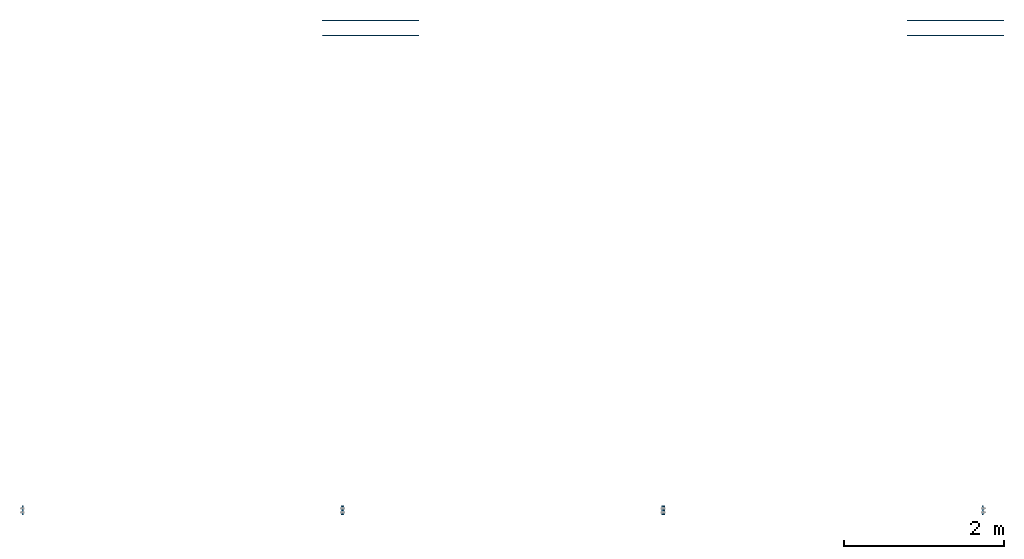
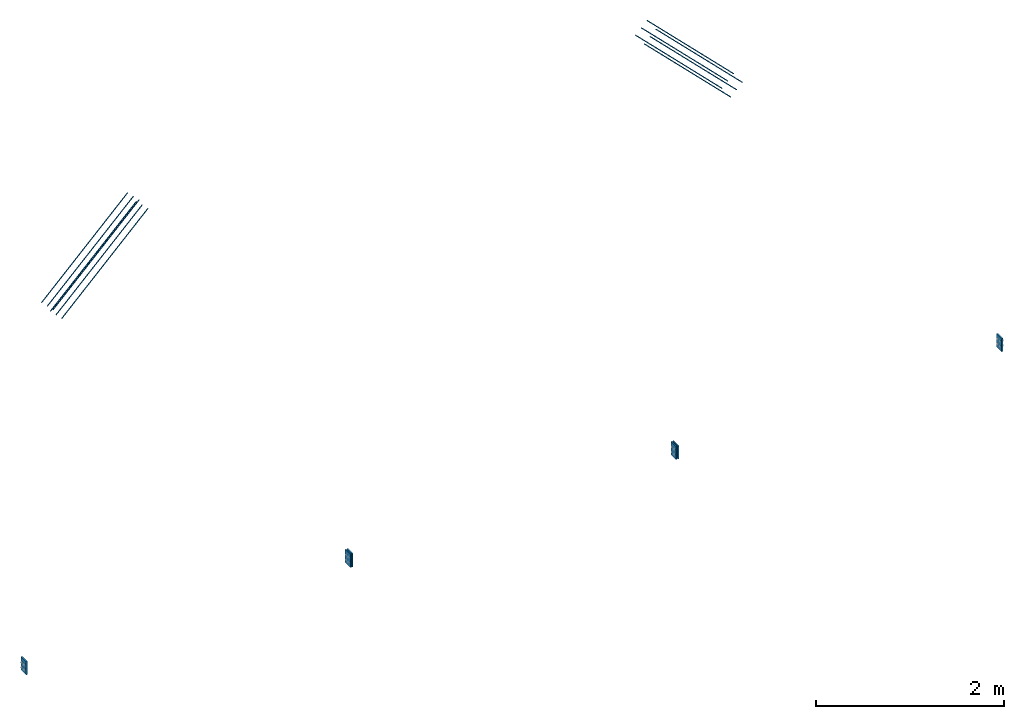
# One storey, part 1 of 13: 6 plates, 4 reinforcing bars, 24 openings.
"""IFC4X3_ADD2 building model written with IfcOpenShell, lengths in millimetres."""

from ifc_helpers import new_model, entity, si_unit, converted_unit, derived_unit, direction, frame, origin, origin_with_axes, origin_2d_with_axis, place, context, subcontext, project, spatial, polyline, circle, outline, extrude, material, layer, layer_set, type_object, element, save


model = new_model("IFC4X3_ADD2")

# Units and contexts
model_context = context("Model", 3, precision=0.01, world=origin(), true_north=direction((6.123233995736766e-17, 1.0)))
plan_context = context("Plan", 3, precision=0.01, world=origin(), true_north=direction((6.123233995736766e-17, 1.0)))
body_context = subcontext(model_context, "Body", "Model", "MODEL_VIEW")
ifc_project = project(units=[si_unit("LENGTHUNIT", "METRE", prefix="MILLI"), converted_unit("PLANEANGLEUNIT", "DEGREE", entity("IfcPlaneAngleMeasure", 0.017453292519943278), si_unit("PLANEANGLEUNIT", "RADIAN"), dimensions=[0, 0, 0, 0, 0, 0, 0]), si_unit("AREAUNIT", "SQUARE_METRE"), si_unit("VOLUMEUNIT", "CUBIC_METRE"), derived_unit("THERMALTRANSMITTANCEUNIT", [(si_unit("MASSUNIT", "GRAM", prefix="KILO"), 1), (si_unit("THERMODYNAMICTEMPERATUREUNIT", "KELVIN"), -1), (si_unit("TIMEUNIT", "SECOND"), -3)]), derived_unit("USERDEFINED", [(si_unit("MASSUNIT", "GRAM", prefix="KILO"), 1), (si_unit("THERMODYNAMICTEMPERATUREUNIT", "KELVIN"), -1), (si_unit("TIMEUNIT", "SECOND"), -2)]), derived_unit("THERMALRESISTANCEUNIT", [(si_unit("MASSUNIT", "GRAM", prefix="KILO"), -1), (si_unit("TIMEUNIT", "SECOND"), 3), (si_unit("THERMODYNAMICTEMPERATUREUNIT", "KELVIN"), 1)]), si_unit("MASSUNIT", "GRAM", prefix="KILO"), derived_unit("MOMENTOFINERTIAUNIT", [(si_unit("LENGTHUNIT", "METRE"), 4)]), derived_unit("LINEARFORCEUNIT", [(si_unit("MASSUNIT", "GRAM", prefix="KILO"), 1), (si_unit("TIMEUNIT", "SECOND"), -2)]), derived_unit("WARPINGCONSTANTUNIT", [(si_unit("LENGTHUNIT", "METRE"), 6)]), si_unit("PRESSUREUNIT", "PASCAL"), derived_unit("MASSDENSITYUNIT", [(si_unit("MASSUNIT", "GRAM", prefix="KILO"), 1), (si_unit("LENGTHUNIT", "METRE"), -3)]), derived_unit("MODULUSOFELASTICITYUNIT", [(si_unit("MASSUNIT", "GRAM", prefix="KILO"), 1), (si_unit("TIMEUNIT", "SECOND"), -2), (si_unit("LENGTHUNIT", "METRE"), -1)]), derived_unit("THERMALEXPANSIONCOEFFICIENTUNIT", [(si_unit("THERMODYNAMICTEMPERATUREUNIT", "KELVIN"), -1)]), derived_unit("VAPORPERMEABILITYUNIT", [(si_unit("LENGTHUNIT", "METRE"), -1), (si_unit("TIMEUNIT", "SECOND"), 1)]), derived_unit("USERDEFINED", [(si_unit("MASSUNIT", "GRAM", prefix="KILO"), 1), (si_unit("TIMEUNIT", "SECOND"), -3), (si_unit("LENGTHUNIT", "METRE"), 3), (si_unit("ELECTRICCURRENTUNIT", "AMPERE"), -2)]), derived_unit("SPECIFICHEATCAPACITYUNIT", [(si_unit("THERMODYNAMICTEMPERATUREUNIT", "KELVIN"), -1), (si_unit("TIMEUNIT", "SECOND"), -2), (si_unit("LENGTHUNIT", "METRE"), 2)]), derived_unit("THERMALCONDUCTANCEUNIT", [(si_unit("MASSUNIT", "GRAM", prefix="KILO"), 1), (si_unit("THERMODYNAMICTEMPERATUREUNIT", "KELVIN"), -1), (si_unit("TIMEUNIT", "SECOND"), -3), (si_unit("LENGTHUNIT", "METRE"), 1)])], contexts=[model_context, plan_context])

# Site, building, storey
site_placement = place(None, origin())
site = spatial("IfcSite", under=ifc_project, at=site_placement, Name="Default", CompositionType="ELEMENT")
building_placement = place(site_placement, origin())
building = spatial("IfcBuilding", under=site, at=building_placement, Name="Complex structure", CompositionType="ELEMENT")
storey_placement = place(building_placement, origin())
storey = spatial("IfcBuildingStorey", under=building, at=storey_placement, Name="Level 00", CompositionType="ELEMENT", Elevation=0.0)

# Plate, openings
ifc_material_1 = material(Name="Metal Stud Layer")
ifc_layer = layer(ifc_material_1, 15.0)
ifc_layer_set = layer_set([ifc_layer], Name="Metal Stud Layer")
plate_1_placement = place(storey_placement, frame((-13127.221550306, -1282.866703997, 2930.0), z_axis=(-1.0, 0.0, 0.0), x_axis=(0.0, 0.0, -1.0)))
plate_1 = element("IfcPlate", 1, at=plate_1_placement, inside=storey, material=ifc_layer_set, Name="Endplate", ObjectType="Endplate", context=model_context, shape_type="SweptSolid", body=[
    extrude(outline(polyline([(-85.0, -55.0), (85.0, -55.0), (85.0, 55.0), (-85.0, 55.0), (-85.0, -55.0)])), origin_with_axes(), (0.0, 0.0, 1.0), 15.0),
])
opening_1_placement = place(plate_1_placement, frame((-35.0, 25.0, 15.5), z_axis=(0.0, 0.0, -1.0), x_axis=(0.0, 1.0, 0.0)))
element("IfcOpeningElement", 2, at=opening_1_placement, cuts=plate_1, ObjectType="Opening", context=model_context, shape_type="SweptSolid", body=[
    extrude(circle(Radius=6.79475, at=origin_2d_with_axis()), origin(), (0.0, 0.0, 1.0), 16.0),
])
opening_2_placement = place(plate_1_placement, frame((30.0, -25.0, 15.5), z_axis=(0.0, 0.0, -1.0), x_axis=(0.0, -1.0, 0.0)))
element("IfcOpeningElement", 3, at=opening_2_placement, cuts=plate_1, ObjectType="Opening", context=model_context, shape_type="SweptSolid", body=[
    extrude(circle(Radius=6.79475, at=origin_2d_with_axis()), origin(), (0.0, 0.0, 1.0), 16.0),
])
opening_3_placement = place(plate_1_placement, frame((-35.0, -25.0, 15.5), z_axis=(0.0, 0.0, -1.0), x_axis=(0.0, -1.0, 0.0)))
element("IfcOpeningElement", 4, at=opening_3_placement, cuts=plate_1, ObjectType="Opening", context=model_context, shape_type="SweptSolid", body=[
    extrude(circle(Radius=6.79475, at=origin_2d_with_axis()), origin(), (0.0, 0.0, 1.0), 16.0),
])
opening_4_placement = place(plate_1_placement, frame((30.0, 25.0, 15.5), z_axis=(0.0, 0.0, -1.0), x_axis=(0.0, 1.0, 0.0)))
element("IfcOpeningElement", 5, at=opening_4_placement, cuts=plate_1, ObjectType="Opening", context=model_context, shape_type="SweptSolid", body=[
    extrude(circle(Radius=6.79475, at=origin_2d_with_axis()), origin(), (0.0, 0.0, 1.0), 16.0),
])

plate_2_placement = place(storey_placement, frame((-9163.221550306, -1282.866703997, 2930.0), z_axis=(1.0, 0.0, 0.0), x_axis=(0.0, 0.0, -1.0)))
plate_2 = element("IfcPlate", 6, at=plate_2_placement, inside=storey, material=ifc_layer_set, Name="Endplate", ObjectType="Endplate", context=model_context, shape_type="SweptSolid", body=[
    extrude(outline(polyline([(-85.0, -55.0), (85.0, -55.0), (85.0, 55.0), (-85.0, 55.0), (-85.0, -55.0)])), origin_with_axes(), (0.0, 0.0, 1.0), 15.0),
])
opening_5_placement = place(plate_2_placement, frame((30.0, 25.0, 15.5), z_axis=(0.0, 0.0, -1.0), x_axis=(0.0, 1.0, 0.0)))
element("IfcOpeningElement", 7, at=opening_5_placement, cuts=plate_2, ObjectType="Opening", context=model_context, shape_type="SweptSolid", body=[
    extrude(circle(Radius=6.79475, at=origin_2d_with_axis()), origin(), (0.0, 0.0, 1.0), 16.0),
])
opening_6_placement = place(plate_2_placement, frame((-35.0, 25.0, 15.5), z_axis=(0.0, 0.0, -1.0), x_axis=(0.0, 1.0, 0.0)))
element("IfcOpeningElement", 8, at=opening_6_placement, cuts=plate_2, ObjectType="Opening", context=model_context, shape_type="SweptSolid", body=[
    extrude(circle(Radius=6.79475, at=origin_2d_with_axis()), origin(), (0.0, 0.0, 1.0), 16.0),
])
opening_7_placement = place(plate_2_placement, frame((30.0, -25.0, 15.5), z_axis=(0.0, 0.0, -1.0), x_axis=(0.0, -1.0, 0.0)))
element("IfcOpeningElement", 9, at=opening_7_placement, cuts=plate_2, ObjectType="Opening", context=model_context, shape_type="SweptSolid", body=[
    extrude(circle(Radius=6.79475, at=origin_2d_with_axis()), origin(), (0.0, 0.0, 1.0), 16.0),
])
opening_8_placement = place(plate_2_placement, frame((-35.0, -25.0, 15.5), z_axis=(0.0, 0.0, -1.0), x_axis=(0.0, -1.0, 0.0)))
element("IfcOpeningElement", 10, at=opening_8_placement, cuts=plate_2, ObjectType="Opening", context=model_context, shape_type="SweptSolid", body=[
    extrude(circle(Radius=6.79475, at=origin_2d_with_axis()), origin(), (0.0, 0.0, 1.0), 16.0),
])

plate_3_placement = place(storey_placement, frame((-9127.221550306, -1282.866703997, 2930.0), z_axis=(-1.0, 0.0, 0.0), x_axis=(0.0, 0.0, -1.0)))
plate_3 = element("IfcPlate", 11, at=plate_3_placement, inside=storey, material=ifc_layer_set, Name="Endplate", ObjectType="Endplate", context=model_context, shape_type="SweptSolid", body=[
    extrude(outline(polyline([(-85.0, -55.0), (85.0, -55.0), (85.0, 55.0), (-85.0, 55.0), (-85.0, -55.0)])), origin_with_axes(), (0.0, 0.0, 1.0), 15.0),
])
opening_9_placement = place(plate_3_placement, frame((30.0, -25.0, 15.5), z_axis=(0.0, 0.0, -1.0), x_axis=(0.0, -1.0, 0.0)))
element("IfcOpeningElement", 12, at=opening_9_placement, cuts=plate_3, ObjectType="Opening", context=model_context, shape_type="SweptSolid", body=[
    extrude(circle(Radius=6.79475, at=origin_2d_with_axis()), origin(), (0.0, 0.0, 1.0), 16.0),
])
opening_10_placement = place(plate_3_placement, frame((30.0, 25.0, 15.5), z_axis=(0.0, 0.0, -1.0), x_axis=(0.0, 1.0, 0.0)))
element("IfcOpeningElement", 13, at=opening_10_placement, cuts=plate_3, ObjectType="Opening", context=model_context, shape_type="SweptSolid", body=[
    extrude(circle(Radius=6.79475, at=origin_2d_with_axis()), origin(), (0.0, 0.0, 1.0), 16.0),
])
opening_11_placement = place(plate_3_placement, frame((-35.0, 25.0, 15.5), z_axis=(0.0, 0.0, -1.0), x_axis=(0.0, 1.0, 0.0)))
element("IfcOpeningElement", 14, at=opening_11_placement, cuts=plate_3, ObjectType="Opening", context=model_context, shape_type="SweptSolid", body=[
    extrude(circle(Radius=6.79475, at=origin_2d_with_axis()), origin(), (0.0, 0.0, 1.0), 16.0),
])
opening_12_placement = place(plate_3_placement, frame((-35.0, -25.0, 15.5), z_axis=(0.0, 0.0, -1.0), x_axis=(0.0, -1.0, 0.0)))
element("IfcOpeningElement", 15, at=opening_12_placement, cuts=plate_3, ObjectType="Opening", context=model_context, shape_type="SweptSolid", body=[
    extrude(circle(Radius=6.79475, at=origin_2d_with_axis()), origin(), (0.0, 0.0, 1.0), 16.0),
])

plate_4_placement = place(storey_placement, frame((-5127.221550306, -1282.866703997, 2930.0), z_axis=(-1.0, 0.0, 0.0), x_axis=(0.0, 0.0, -1.0)))
plate_4 = element("IfcPlate", 16, at=plate_4_placement, inside=storey, material=ifc_layer_set, Name="Endplate", ObjectType="Endplate", context=model_context, shape_type="SweptSolid", body=[
    extrude(outline(polyline([(-85.0, -55.0), (85.0, -55.0), (85.0, 55.0), (-85.0, 55.0), (-85.0, -55.0)])), origin_with_axes(), (0.0, 0.0, 1.0), 15.0),
])
opening_13_placement = place(plate_4_placement, frame((-35.0, 25.0, 15.5), z_axis=(0.0, 0.0, -1.0), x_axis=(0.0, 1.0, 0.0)))
element("IfcOpeningElement", 17, at=opening_13_placement, cuts=plate_4, ObjectType="Opening", context=model_context, shape_type="SweptSolid", body=[
    extrude(circle(Radius=6.79475, at=origin_2d_with_axis()), origin(), (0.0, 0.0, 1.0), 16.0),
])
opening_14_placement = place(plate_4_placement, frame((30.0, -25.0, 15.5), z_axis=(0.0, 0.0, -1.0), x_axis=(0.0, -1.0, 0.0)))
element("IfcOpeningElement", 18, at=opening_14_placement, cuts=plate_4, ObjectType="Opening", context=model_context, shape_type="SweptSolid", body=[
    extrude(circle(Radius=6.79475, at=origin_2d_with_axis()), origin(), (0.0, 0.0, 1.0), 16.0),
])
opening_15_placement = place(plate_4_placement, frame((30.0, 25.0, 15.5), z_axis=(0.0, 0.0, -1.0), x_axis=(0.0, 1.0, 0.0)))
element("IfcOpeningElement", 19, at=opening_15_placement, cuts=plate_4, ObjectType="Opening", context=model_context, shape_type="SweptSolid", body=[
    extrude(circle(Radius=6.79475, at=origin_2d_with_axis()), origin(), (0.0, 0.0, 1.0), 16.0),
])
opening_16_placement = place(plate_4_placement, frame((-35.0, -25.0, 15.5), z_axis=(0.0, 0.0, -1.0), x_axis=(0.0, -1.0, 0.0)))
element("IfcOpeningElement", 20, at=opening_16_placement, cuts=plate_4, ObjectType="Opening", context=model_context, shape_type="SweptSolid", body=[
    extrude(circle(Radius=6.79475, at=origin_2d_with_axis()), origin(), (0.0, 0.0, 1.0), 16.0),
])

plate_5_placement = place(storey_placement, frame((-5163.221550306, -1282.866703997, 2930.0), z_axis=(1.0, 0.0, 0.0), x_axis=(0.0, 0.0, -1.0)))
plate_5 = element("IfcPlate", 21, at=plate_5_placement, inside=storey, material=ifc_layer_set, Name="Endplate", ObjectType="Endplate", context=model_context, shape_type="SweptSolid", body=[
    extrude(outline(polyline([(-85.0, -55.0), (85.0, -55.0), (85.0, 55.0), (-85.0, 55.0), (-85.0, -55.0)])), origin_with_axes(), (0.0, 0.0, 1.0), 15.0),
])
opening_17_placement = place(plate_5_placement, frame((30.0, 25.0, 15.5), z_axis=(0.0, 0.0, -1.0), x_axis=(0.0, 1.0, 0.0)))
element("IfcOpeningElement", 22, at=opening_17_placement, cuts=plate_5, ObjectType="Opening", context=model_context, shape_type="SweptSolid", body=[
    extrude(circle(Radius=6.79475, at=origin_2d_with_axis()), origin(), (0.0, 0.0, 1.0), 16.0),
])
opening_18_placement = place(plate_5_placement, frame((30.0, -25.0, 15.5), z_axis=(0.0, 0.0, -1.0), x_axis=(0.0, -1.0, 0.0)))
element("IfcOpeningElement", 23, at=opening_18_placement, cuts=plate_5, ObjectType="Opening", context=model_context, shape_type="SweptSolid", body=[
    extrude(circle(Radius=6.79475, at=origin_2d_with_axis()), origin(), (0.0, 0.0, 1.0), 16.0),
])
opening_19_placement = place(plate_5_placement, frame((-35.0, -25.0, 15.5), z_axis=(0.0, 0.0, -1.0), x_axis=(0.0, -1.0, 0.0)))
element("IfcOpeningElement", 24, at=opening_19_placement, cuts=plate_5, ObjectType="Opening", context=model_context, shape_type="SweptSolid", body=[
    extrude(circle(Radius=6.79475, at=origin_2d_with_axis()), origin(), (0.0, 0.0, 1.0), 16.0),
])
opening_20_placement = place(plate_5_placement, frame((-35.0, 25.0, 15.5), z_axis=(0.0, 0.0, -1.0), x_axis=(0.0, 1.0, 0.0)))
element("IfcOpeningElement", 25, at=opening_20_placement, cuts=plate_5, ObjectType="Opening", context=model_context, shape_type="SweptSolid", body=[
    extrude(circle(Radius=6.79475, at=origin_2d_with_axis()), origin(), (0.0, 0.0, 1.0), 16.0),
])

plate_6_placement = place(storey_placement, frame((-1163.221550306, -1282.866703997, 2930.0), z_axis=(1.0, 0.0, 0.0), x_axis=(0.0, 0.0, -1.0)))
plate_6 = element("IfcPlate", 26, at=plate_6_placement, inside=storey, material=ifc_layer_set, Name="Endplate", ObjectType="Endplate", context=model_context, shape_type="SweptSolid", body=[
    extrude(outline(polyline([(-85.0, -55.0), (85.0, -55.0), (85.0, 55.0), (-85.0, 55.0), (-85.0, -55.0)])), origin_with_axes(), (0.0, 0.0, 1.0), 15.0),
])
opening_21_placement = place(plate_6_placement, frame((-35.0, -25.0, 15.5), z_axis=(0.0, 0.0, -1.0), x_axis=(0.0, -1.0, 0.0)))
element("IfcOpeningElement", 27, at=opening_21_placement, cuts=plate_6, ObjectType="Opening", context=model_context, shape_type="SweptSolid", body=[
    extrude(circle(Radius=6.79475, at=origin_2d_with_axis()), origin(), (0.0, 0.0, 1.0), 16.0),
])
opening_22_placement = place(plate_6_placement, frame((30.0, 25.0, 15.5), z_axis=(0.0, 0.0, -1.0), x_axis=(0.0, 1.0, 0.0)))
element("IfcOpeningElement", 28, at=opening_22_placement, cuts=plate_6, ObjectType="Opening", context=model_context, shape_type="SweptSolid", body=[
    extrude(circle(Radius=6.79475, at=origin_2d_with_axis()), origin(), (0.0, 0.0, 1.0), 16.0),
])
opening_23_placement = place(plate_6_placement, frame((-35.0, 25.0, 15.5), z_axis=(0.0, 0.0, -1.0), x_axis=(0.0, 1.0, 0.0)))
element("IfcOpeningElement", 29, at=opening_23_placement, cuts=plate_6, ObjectType="Opening", context=model_context, shape_type="SweptSolid", body=[
    extrude(circle(Radius=6.79475, at=origin_2d_with_axis()), origin(), (0.0, 0.0, 1.0), 16.0),
])
opening_24_placement = place(plate_6_placement, frame((30.0, -25.0, 15.5), z_axis=(0.0, 0.0, -1.0), x_axis=(0.0, -1.0, 0.0)))
element("IfcOpeningElement", 30, at=opening_24_placement, cuts=plate_6, ObjectType="Opening", context=model_context, shape_type="SweptSolid", body=[
    extrude(circle(Radius=6.79475, at=origin_2d_with_axis()), origin(), (0.0, 0.0, 1.0), 16.0),
])

# Reinforcing bars
ifc_material_2 = material(Name="Steel Rebar - B500A, B or C", Category="Unassigned")
reinforcing_bar_type = type_object("IfcReinforcingBarType", Name="Rebar Bar:12mm", PredefinedType="NOTDEFINED")
reinforcing_bar_1_placement = place(storey_placement, origin())
element("IfcReinforcingBar", 31, at=reinforcing_bar_1_placement, inside=storey, type_object=reinforcing_bar_type, material=ifc_material_2, Name="Rebar Bar:12mm : Shape 00", ObjectType="Rebar Bar:12mm", context=body_context, shape_type="AdvancedSweptSolid", body=[
    entity("IfcSweptDiskSolid", entity("IfcCompositeCurve", [entity("IfcCompositeCurveSegment", "CONTINUOUS", True, entity("IfcPolyline", [entity("IfcCartesianPoint", [-9394.731081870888, 4830.133296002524, 2623.9121208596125]), entity("IfcCartesianPoint", [-8334.070910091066, 4830.133296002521, 3684.572292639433])]))], False), 6.0, None, 0.0, 1.0),
    entity("IfcSweptDiskSolid", entity("IfcCompositeCurve", [entity("IfcCompositeCurveSegment", "CONTINUOUS", True, entity("IfcPolyline", [entity("IfcCartesianPoint", [-9324.020403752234, 4830.133296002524, 2553.201442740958]), entity("IfcCartesianPoint", [-8263.36023197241, 4830.13329600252, 3613.8616145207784])]))], False), 6.0, None, 0.0, 1.0),
    entity("IfcSweptDiskSolid", entity("IfcCompositeCurve", [entity("IfcCompositeCurveSegment", "CONTINUOUS", True, entity("IfcPolyline", [entity("IfcCartesianPoint", [-9253.30972563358, 4830.133296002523, 2482.490764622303]), entity("IfcCartesianPoint", [-8192.649553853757, 4830.13329600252, 3543.150936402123])]))], False), 6.0, None, 0.0, 1.0),
])
reinforcing_bar_2_placement = place(storey_placement, origin())
element("IfcReinforcingBar", 32, at=reinforcing_bar_2_placement, inside=storey, type_object=reinforcing_bar_type, material=ifc_material_2, Name="Rebar Bar:12mm : Shape 00", ObjectType="Rebar Bar:12mm", context=body_context, shape_type="AdvancedSweptSolid", body=[
    entity("IfcSweptDiskSolid", entity("IfcCompositeCurve", [entity("IfcCompositeCurveSegment", "CONTINUOUS", True, entity("IfcPolyline", [entity("IfcCartesianPoint", [-895.712018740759, 4830.1332960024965, 2623.912120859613]), entity("IfcCartesianPoint", [-1956.3721905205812, 4830.1332960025, 3684.5722926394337])]))], False), 6.0, None, 0.0, 1.0),
    entity("IfcSweptDiskSolid", entity("IfcCompositeCurve", [entity("IfcCompositeCurveSegment", "CONTINUOUS", True, entity("IfcPolyline", [entity("IfcCartesianPoint", [-966.4226968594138, 4830.133296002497, 2553.2014427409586]), entity("IfcCartesianPoint", [-2027.082868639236, 4830.1332960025, 3613.8616145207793])]))], False), 6.0, None, 0.0, 1.0),
    entity("IfcSweptDiskSolid", entity("IfcCompositeCurve", [entity("IfcCompositeCurveSegment", "CONTINUOUS", True, entity("IfcPolyline", [entity("IfcCartesianPoint", [-1037.1333749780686, 4830.133296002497, 2482.4907646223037]), entity("IfcCartesianPoint", [-2097.7935467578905, 4830.133296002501, 3543.1509364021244])]))], False), 6.0, None, 0.0, 1.0),
])
reinforcing_bar_3_placement = place(storey_placement, origin())
element("IfcReinforcingBar", 33, at=reinforcing_bar_3_placement, inside=storey, type_object=reinforcing_bar_type, material=ifc_material_2, Name="Rebar Bar:12mm : Shape 00", ObjectType="Rebar Bar:12mm", context=body_context, shape_type="AdvancedSweptSolid", body=[
    entity("IfcSweptDiskSolid", entity("IfcCompositeCurve", [entity("IfcCompositeCurveSegment", "CONTINUOUS", True, entity("IfcPolyline", [entity("IfcCartesianPoint", [-9394.73108187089, 4644.133296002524, 2623.9121208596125]), entity("IfcCartesianPoint", [-8334.070910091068, 4644.13329600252, 3684.572292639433])]))], False), 6.0, None, 0.0, 1.0),
    entity("IfcSweptDiskSolid", entity("IfcCompositeCurve", [entity("IfcCompositeCurveSegment", "CONTINUOUS", True, entity("IfcPolyline", [entity("IfcCartesianPoint", [-9324.020403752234, 4644.133296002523, 2553.201442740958]), entity("IfcCartesianPoint", [-8263.360231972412, 4644.13329600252, 3613.8616145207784])]))], False), 6.0, None, 0.0, 1.0),
    entity("IfcSweptDiskSolid", entity("IfcCompositeCurve", [entity("IfcCompositeCurveSegment", "CONTINUOUS", True, entity("IfcPolyline", [entity("IfcCartesianPoint", [-9253.30972563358, 4644.133296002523, 2482.490764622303]), entity("IfcCartesianPoint", [-8192.649553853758, 4644.133296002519, 3543.150936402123])]))], False), 6.0, None, 0.0, 1.0),
])
reinforcing_bar_4_placement = place(storey_placement, origin())
element("IfcReinforcingBar", 34, at=reinforcing_bar_4_placement, inside=storey, type_object=reinforcing_bar_type, material=ifc_material_2, Name="Rebar Bar:12mm : Shape 00", ObjectType="Rebar Bar:12mm", context=body_context, shape_type="AdvancedSweptSolid", body=[
    entity("IfcSweptDiskSolid", entity("IfcCompositeCurve", [entity("IfcCompositeCurveSegment", "CONTINUOUS", True, entity("IfcPolyline", [entity("IfcCartesianPoint", [-895.7120187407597, 4644.133296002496, 2623.9121208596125]), entity("IfcCartesianPoint", [-1956.372190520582, 4644.133296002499, 3684.5722926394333])]))], False), 6.0, None, 0.0, 1.0),
    entity("IfcSweptDiskSolid", entity("IfcCompositeCurve", [entity("IfcCompositeCurveSegment", "CONTINUOUS", True, entity("IfcPolyline", [entity("IfcCartesianPoint", [-966.4226968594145, 4644.1332960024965, 2553.201442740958]), entity("IfcCartesianPoint", [-2027.0828686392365, 4644.133296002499, 3613.861614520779])]))], False), 6.0, None, 0.0, 1.0),
    entity("IfcSweptDiskSolid", entity("IfcCompositeCurve", [entity("IfcCompositeCurveSegment", "CONTINUOUS", True, entity("IfcPolyline", [entity("IfcCartesianPoint", [-1037.1333749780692, 4644.1332960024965, 2482.490764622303]), entity("IfcCartesianPoint", [-2097.7935467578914, 4644.1332960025, 3543.1509364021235])]))], False), 6.0, None, 0.0, 1.0),
])

save(model, "model.ifc")
